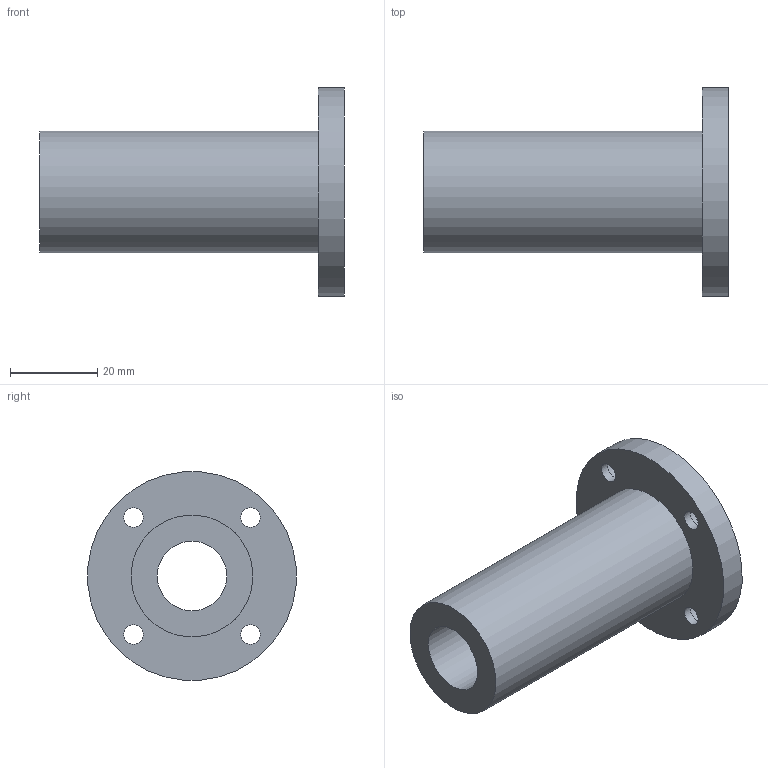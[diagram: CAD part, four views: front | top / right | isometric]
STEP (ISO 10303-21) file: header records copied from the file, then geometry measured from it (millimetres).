
FILE_DESCRIPTION(/* description */ (''),/* implementation_level */ '2;1');
FILE_NAME(/* name */ 'LMF16LUU',/* time_stamp */ '2019-07-03T10:02:46+02:00',/* author */ ('VĂ©gh MĂˇtĂ©'),/* organization */ ('Bearing Kft'),/* preprocessor_version */ 'ST-DEVELOPER v16.7',/* originating_system */ 'DEX',/* authorisation */ $);
FILE_SCHEMA (('AUTOMOTIVE_DESIGN {1 0 10303 214 3 1 1}'));
Length unit declared in the file: millimetre
Products named in the file (1): LMF16LUU
Bounding box: 70 x 47.82 x 47.82 mm (x, y, z)
Volume: 35343 mm3; surface area: 13656.5 mm2
Topology: 1 solids, 1 shells, 325 faces, 813 edges, 542 vertices
Faces by surface type: plane 252, bspline 59, cylinder 14
Full cylindrical faces by diameter (mm): 4.5 x4, 7.5 x4, 16 x1, 28 x1, 48 x1
Entity records: 12356 total; most frequent: CARTESIAN_POINT 4937, ORIENTED_EDGE 1600, DIRECTION 1244, EDGE_CURVE 800, LINE 654, VECTOR 654, VERTEX_POINT 542, EDGE_LOOP 400
